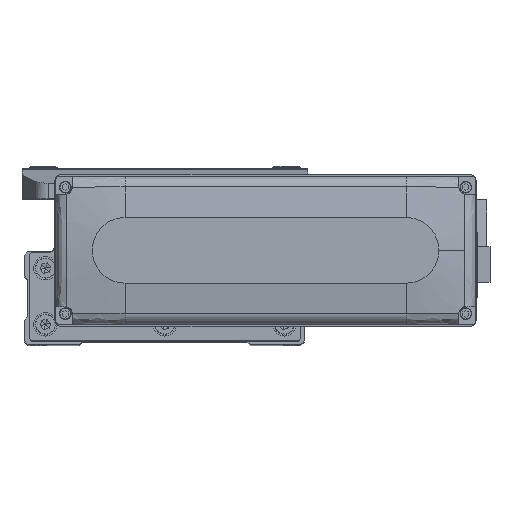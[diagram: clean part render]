
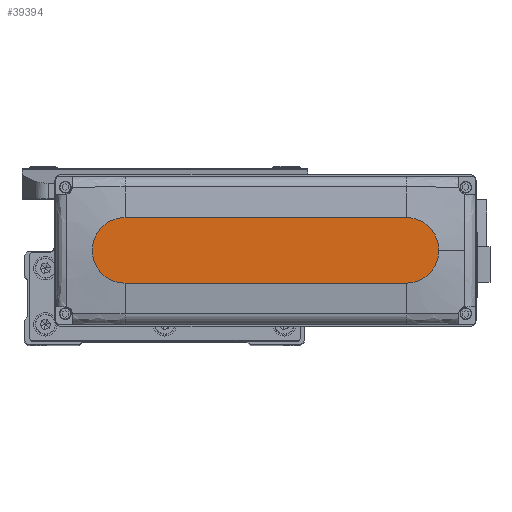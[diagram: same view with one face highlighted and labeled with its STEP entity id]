
A CAD part, top view. The second image highlights one B-rep face of the part: STEP entity #39394.
In plain terms, the highlighted planar face has unit normal (0, 0, 1).
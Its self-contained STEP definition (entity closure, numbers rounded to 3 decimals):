
#622 = LINE ( 'NONE', #13666, #27634 ) ;
#1115 = DIRECTION ( 'NONE',  ( 1., 0., 0. ) ) ;
#1147 = AXIS2_PLACEMENT_3D ( 'NONE', #28956, #42038, #12723 ) ;
#1864 = ORIENTED_EDGE ( 'NONE', *, *, #41270, .T. ) ;
#2864 = FACE_OUTER_BOUND ( 'NONE', #27568, .T. ) ;
#5218 = CARTESIAN_POINT ( 'NONE',  ( -60., -14., 28.5 ) ) ;
#5830 = EDGE_CURVE ( 'NONE', #6299, #13458, #34531, .T. ) ;
#6299 = VERTEX_POINT ( 'NONE', #11598 ) ;
#6459 = CARTESIAN_POINT ( 'NONE',  ( 60., 0., 28.5 ) ) ;
#8662 = EDGE_CURVE ( 'NONE', #16088, #9144, #30566, .T. ) ;
#9144 = VERTEX_POINT ( 'NONE', #39402 ) ;
#11598 = CARTESIAN_POINT ( 'NONE',  ( -60., -14., 28.5 ) ) ;
#12101 = AXIS2_PLACEMENT_3D ( 'NONE', #6459, #19529, #32593 ) ;
#12273 = VERTEX_POINT ( 'NONE', #13460 ) ;
#12490 = DIRECTION ( 'NONE',  ( 1., 0., 0. ) ) ;
#12723 = DIRECTION ( 'NONE',  ( 1., 0., 0. ) ) ;
#12753 = AXIS2_PLACEMENT_3D ( 'NONE', #17362, #30415, #1115 ) ;
#13458 = VERTEX_POINT ( 'NONE', #22016 ) ;
#13460 = CARTESIAN_POINT ( 'NONE',  ( -60., 14., 28.5 ) ) ;
#13666 = CARTESIAN_POINT ( 'NONE',  ( -60., 14., 28.5 ) ) ;
#14129 = AXIS2_PLACEMENT_3D ( 'NONE', #28749, #41824, #12490 ) ;
#15689 = ORIENTED_EDGE ( 'NONE', *, *, #8662, .T. ) ;
#15923 = PLANE ( 'NONE',  #1147 ) ;
#16088 = VERTEX_POINT ( 'NONE', #28863 ) ;
#16683 = ORIENTED_EDGE ( 'NONE', *, *, #33898, .T. ) ;
#17362 = CARTESIAN_POINT ( 'NONE',  ( 60., 0., 28.5 ) ) ;
#17816 = ORIENTED_EDGE ( 'NONE', *, *, #5830, .T. ) ;
#18274 = DIRECTION ( 'NONE',  ( 1., 0., 0. ) ) ;
#19529 = DIRECTION ( 'NONE',  ( 0., 0., 1. ) ) ;
#22016 = CARTESIAN_POINT ( 'NONE',  ( 60., -14., 28.5 ) ) ;
#24254 = VECTOR ( 'NONE', #18274, 1000. ) ;
#25282 = ORIENTED_EDGE ( 'NONE', *, *, #39362, .T. ) ;
#26712 = DIRECTION ( 'NONE',  ( -1., 0., 0. ) ) ;
#27568 = EDGE_LOOP ( 'NONE', ( #16683, #25282, #17816, #1864, #15689 ) ) ;
#27634 = VECTOR ( 'NONE', #26712, 1000. ) ;
#28749 = CARTESIAN_POINT ( 'NONE',  ( -60., 0., 28.5 ) ) ;
#28863 = CARTESIAN_POINT ( 'NONE',  ( 74., 0., 28.5 ) ) ;
#28956 = CARTESIAN_POINT ( 'NONE',  ( 0., 0., 28.5 ) ) ;
#30415 = DIRECTION ( 'NONE',  ( 0., 0., 1. ) ) ;
#30566 = CIRCLE ( 'NONE', #12101, 14. ) ;
#31211 = CIRCLE ( 'NONE', #12753, 14. ) ;
#32581 = CIRCLE ( 'NONE', #14129, 14. ) ;
#32593 = DIRECTION ( 'NONE',  ( 1., 0., 0. ) ) ;
#33898 = EDGE_CURVE ( 'NONE', #9144, #12273, #622, .T. ) ;
#34531 = LINE ( 'NONE', #5218, #24254 ) ;
#39362 = EDGE_CURVE ( 'NONE', #12273, #6299, #32581, .T. ) ;
#39394 = ADVANCED_FACE ( 'NONE', ( #2864 ), #15923, .T. ) ;
#39402 = CARTESIAN_POINT ( 'NONE',  ( 60., 14., 28.5 ) ) ;
#41270 = EDGE_CURVE ( 'NONE', #13458, #16088, #31211, .T. ) ;
#41824 = DIRECTION ( 'NONE',  ( 0., 0., 1. ) ) ;
#42038 = DIRECTION ( 'NONE',  ( 0., 0., 1. ) ) ;
